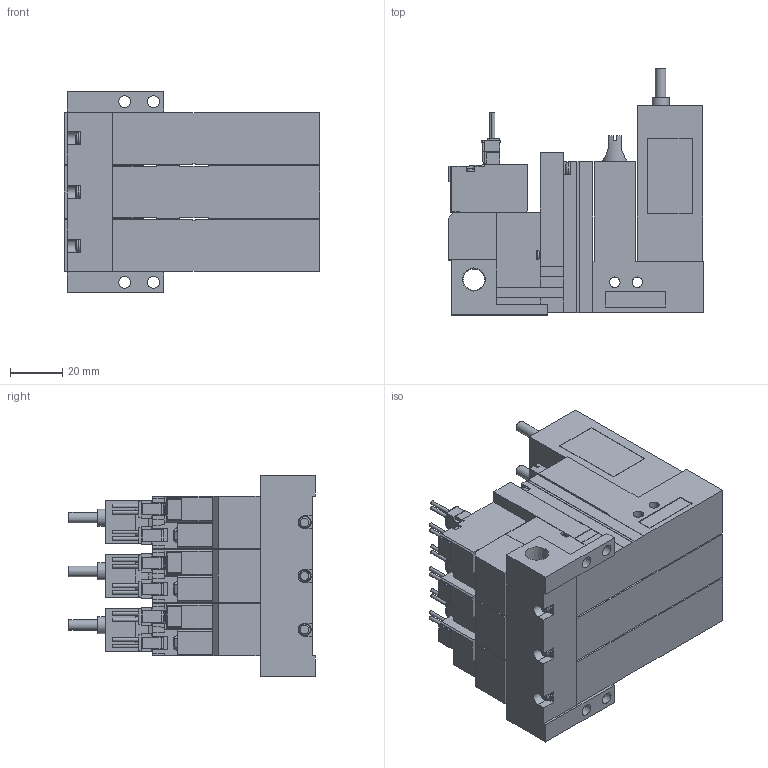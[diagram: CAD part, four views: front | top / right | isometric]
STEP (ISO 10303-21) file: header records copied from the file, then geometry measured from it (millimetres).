
FILE_DESCRIPTION(('STEP AP203'),'1');
FILE_NAME('VG_VGPLC5ALR303.stp','2025-02-18T23:16:37',(' '),(' '),'Spatial InterOp 3D',' ',' ');
FILE_SCHEMA(('CONFIG_CONTROL_DESIGN'));
Length unit declared in the file: millimetre
Products named in the file (5): BMC22M※※※※VG_VGPLC5ALR303; Solenoid valve A; Pressure sensor VGLC; Unit LC; Base MR30R
Assembly tree (10 placements, depth 2):
  BMC22M※※※※VG_VGPLC5ALR303
    Solenoid valve A  x3
    Pressure sensor VGLC  x3
    Unit LC  x3
    Base MR30R
Bounding box: 97.6 x 94 x 77 mm (x, y, z)
Volume: 340894.5 mm3; surface area: 88126.9 mm2
Topology: 10 solids, 10 shells, 1266 faces, 3389 edges, 2230 vertices
Faces by surface type: plane 1070, cylinder 158, cone 23, torus 15
Full cylindrical faces by diameter (mm): 1.4 x12, 2.5 x9, 3 x12, 3.5 x12, 3.6 x3, 4 x18, 4.134 x3, 4.5 x4, 5.2 x3, 6 x3, 6.5 x3, 6.6 x3, 8.279 x1
Entity records: 14446 total; most frequent: CARTESIAN_POINT 2714, ORIENTED_EDGE 2310, DIRECTION 2289, EDGE_CURVE 1155, LINE 965, VECTOR 965, VERTEX_POINT 796, AXIS2_PLACEMENT_3D 662
